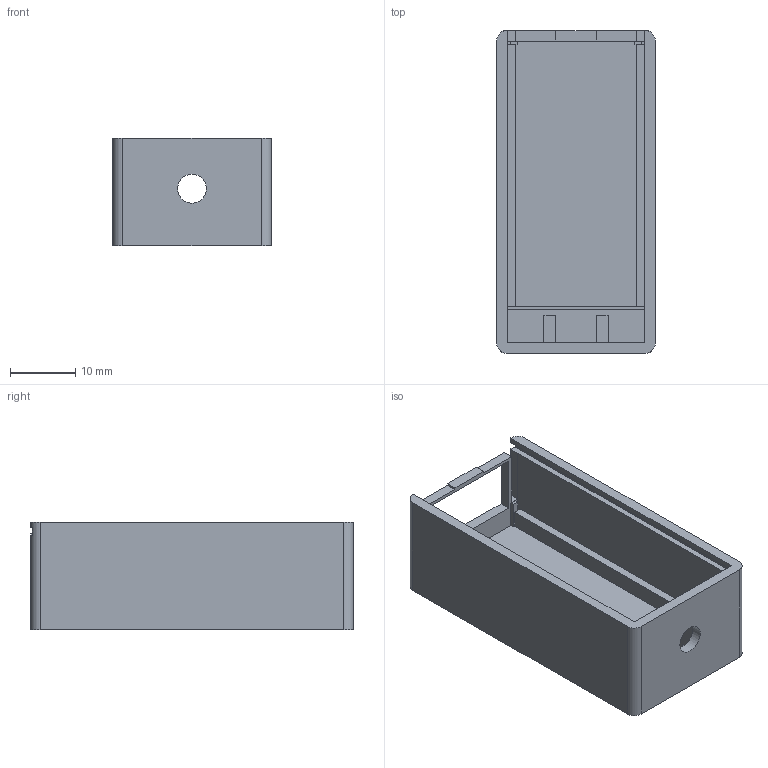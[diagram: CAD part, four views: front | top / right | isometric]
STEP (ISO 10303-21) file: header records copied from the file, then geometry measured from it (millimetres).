
FILE_DESCRIPTION(('Open CASCADE Model'),'2;1');
FILE_NAME('Open CASCADE Shape Model','2026-11-04T10:48:26',('Author'),( 'Open CASCADE'),'Open CASCADE STEP processor 7.9','Open CASCADE 7.9' ,'Unknown');
FILE_SCHEMA(('AUTOMOTIVE_DESIGN { 1 0 10303 214 1 1 1 1 }'));
Length unit declared in the file: millimetre
Products named in the file (1): Open CASCADE STEP translator 7.9 2
Bounding box: 24.2 x 49.3 x 16.4 mm (x, y, z)
Volume: 5140.7 mm3; surface area: 6930.4 mm2
Topology: 1 solids, 1 shells, 77 faces, 223 edges, 148 vertices
Faces by surface type: plane 72, cylinder 5
Full cylindrical faces by diameter (mm): 4.4 x1
Entity records: 5438 total; most frequent: CARTESIAN_POINT 931, DIRECTION 833, LINE 641, VECTOR 641, ORIENTED_EDGE 446, PCURVE 446, DEFINITIONAL_REPRESENTATION 446, EDGE_CURVE 223
